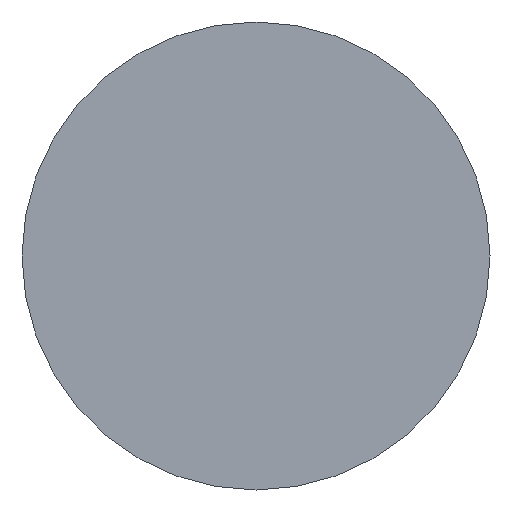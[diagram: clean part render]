
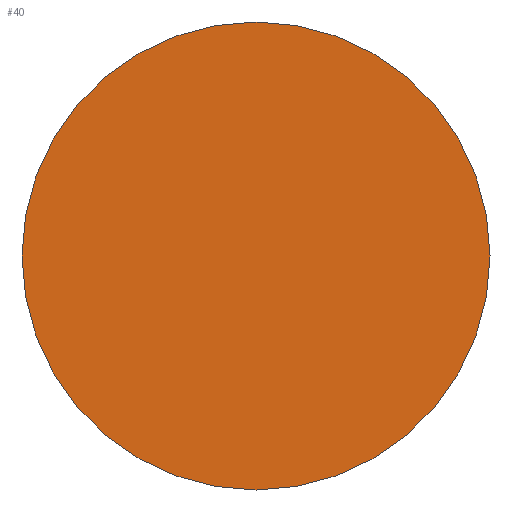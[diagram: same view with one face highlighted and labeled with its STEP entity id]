
A CAD part, left-side view. The second image highlights one B-rep face of the part: STEP entity #40.
In plain terms, the highlighted planar face has unit normal (-1, 0, 0).
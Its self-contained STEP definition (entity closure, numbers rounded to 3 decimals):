
#15 = VERTEX_POINT ( 'NONE', #161 ) ;
#17 = AXIS2_PLACEMENT_3D ( 'NONE', #264, #242, #185 ) ;
#36 = VERTEX_POINT ( 'NONE', #141 ) ;
#40 = ADVANCED_FACE ( 'NONE', ( #173 ), #186, .T. ) ;
#89 = ORIENTED_EDGE ( 'NONE', *, *, #159, .F. ) ;
#105 = CIRCLE ( 'NONE', #17, 6. ) ;
#108 = EDGE_LOOP ( 'NONE', ( #137, #89 ) ) ;
#130 = CIRCLE ( 'NONE', #164, 6. ) ;
#137 = ORIENTED_EDGE ( 'NONE', *, *, #267, .F. ) ;
#141 = CARTESIAN_POINT ( 'NONE',  ( 0., 6., 0. ) ) ;
#159 = EDGE_CURVE ( 'NONE', #15, #36, #105, .T. ) ;
#161 = CARTESIAN_POINT ( 'NONE',  ( 0., -6., 0. ) ) ;
#164 = AXIS2_PLACEMENT_3D ( 'NONE', #238, #178, #263 ) ;
#167 = CARTESIAN_POINT ( 'NONE',  ( 0., 0., 0. ) ) ;
#173 = FACE_OUTER_BOUND ( 'NONE', #108, .T. ) ;
#178 = DIRECTION ( 'NONE',  ( 1., 0., 0. ) ) ;
#185 = DIRECTION ( 'NONE',  ( 0., 1., 0. ) ) ;
#186 = PLANE ( 'NONE',  #271 ) ;
#222 = DIRECTION ( 'NONE',  ( -1., 0., 0. ) ) ;
#238 = CARTESIAN_POINT ( 'NONE',  ( 0., 0., 0. ) ) ;
#242 = DIRECTION ( 'NONE',  ( 1., 0., 0. ) ) ;
#263 = DIRECTION ( 'NONE',  ( 0., 1., 0. ) ) ;
#264 = CARTESIAN_POINT ( 'NONE',  ( 0., 0., 0. ) ) ;
#267 = EDGE_CURVE ( 'NONE', #36, #15, #130, .T. ) ;
#271 = AXIS2_PLACEMENT_3D ( 'NONE', #167, #222, #272 ) ;
#272 = DIRECTION ( 'NONE',  ( 0., -1., 0. ) ) ;
